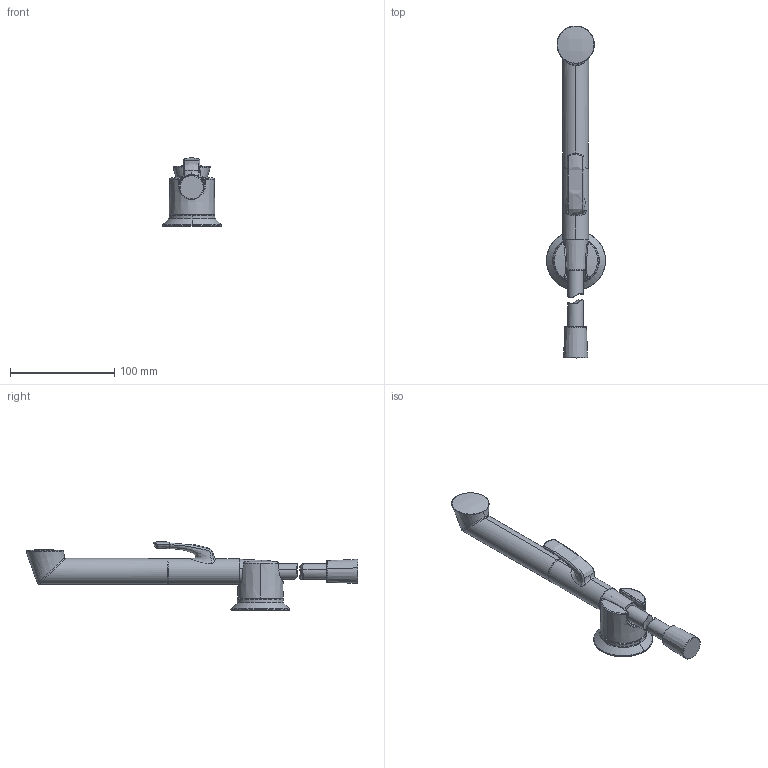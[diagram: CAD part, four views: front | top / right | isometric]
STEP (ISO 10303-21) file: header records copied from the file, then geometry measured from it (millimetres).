
FILE_DESCRIPTION (( 'STEP AP203' ), '1' );
FILE_NAME ('337Z(2024).STEP', '2023-11-06T10:27:54', ( '' ), ( '' ), 'SwSTEP 2.0', 'SolidWorks 2016', '' );
FILE_SCHEMA (( 'CONFIG_CONTROL_DESIGN' ));
Length unit declared in the file: millimetre
Products named in the file (1): 337Z(2024)
Bounding box: 56.69 x 318.66 x 65.52 mm (x, y, z)
Volume: 206443 mm3; surface area: 43348.9 mm2
Topology: 6 solids, 6 shells, 135 faces, 337 edges, 218 vertices
Faces by surface type: bspline 80, plane 16, cylinder 14, torus 14, cone 11
Entity records: 23634 total; most frequent: CARTESIAN_POINT 20958, ORIENTED_EDGE 674, DIRECTION 354, EDGE_CURVE 337, VERTEX_POINT 218, B_SPLINE_CURVE_WITH_KNOTS 189, AXIS2_PLACEMENT_3D 162, EDGE_LOOP 139
